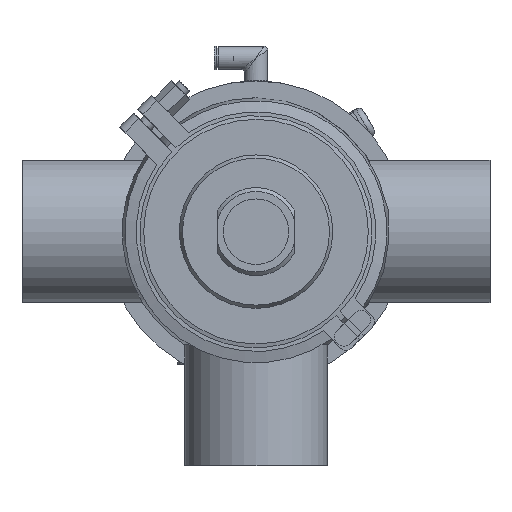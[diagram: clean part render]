
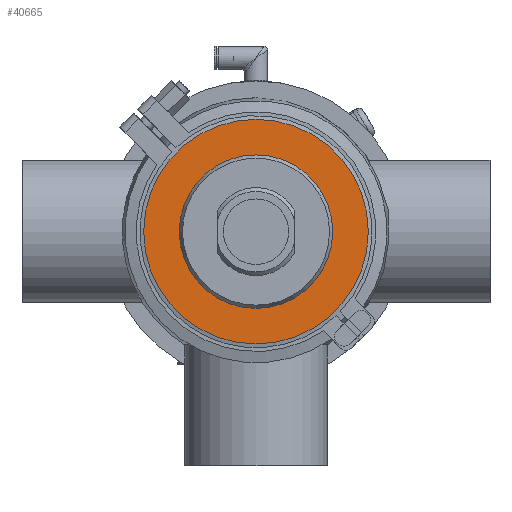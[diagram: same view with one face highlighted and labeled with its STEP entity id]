
A CAD part, front view. The second image highlights one B-rep face of the part: STEP entity #40665.
In plain terms, the highlighted planar face has unit normal (0, -1, 0).
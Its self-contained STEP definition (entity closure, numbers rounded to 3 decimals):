
#1230 = CIRCLE ( 'NONE', #39563, 41. ) ;
#3091 = ORIENTED_EDGE ( 'NONE', *, *, #48803, .F. ) ;
#6739 = CARTESIAN_POINT ( 'NONE',  ( 0., -13., 0. ) ) ;
#7570 = DIRECTION ( 'NONE',  ( 0., 0., -1. ) ) ;
#7871 = DIRECTION ( 'NONE',  ( 0., -1., 0. ) ) ;
#11687 = ORIENTED_EDGE ( 'NONE', *, *, #37526, .T. ) ;
#13779 = VERTEX_POINT ( 'NONE', #46907 ) ;
#19855 = CIRCLE ( 'NONE', #22877, 60. ) ;
#22877 = AXIS2_PLACEMENT_3D ( 'NONE', #6739, #50688, #45941 ) ;
#24336 = EDGE_LOOP ( 'NONE', ( #3091 ) ) ;
#24688 = EDGE_LOOP ( 'NONE', ( #11687 ) ) ;
#30739 = CARTESIAN_POINT ( 'NONE',  ( -60., -13., 0. ) ) ;
#33416 = CARTESIAN_POINT ( 'NONE',  ( 0., -13., 0. ) ) ;
#34845 = FACE_BOUND ( 'NONE', #24688, .T. ) ;
#37526 = EDGE_CURVE ( 'NONE', #38802, #38802, #1230, .T. ) ;
#38459 = DIRECTION ( 'NONE',  ( 0., 1., 0. ) ) ;
#38802 = VERTEX_POINT ( 'NONE', #58132 ) ;
#39563 = AXIS2_PLACEMENT_3D ( 'NONE', #33416, #38459, #47919 ) ;
#40665 = ADVANCED_FACE ( 'NONE', ( #34845, #54103 ), #50901, .T. ) ;
#45941 = DIRECTION ( 'NONE',  ( 0., 0., 1. ) ) ;
#46907 = CARTESIAN_POINT ( 'NONE',  ( 0., -13., 60. ) ) ;
#47900 = AXIS2_PLACEMENT_3D ( 'NONE', #30739, #7871, #7570 ) ;
#47919 = DIRECTION ( 'NONE',  ( 0., 0., 1. ) ) ;
#48803 = EDGE_CURVE ( 'NONE', #13779, #13779, #19855, .T. ) ;
#50688 = DIRECTION ( 'NONE',  ( 0., 1., 0. ) ) ;
#50901 = PLANE ( 'NONE',  #47900 ) ;
#54103 = FACE_OUTER_BOUND ( 'NONE', #24336, .T. ) ;
#58132 = CARTESIAN_POINT ( 'NONE',  ( 0., -13., 41. ) ) ;
